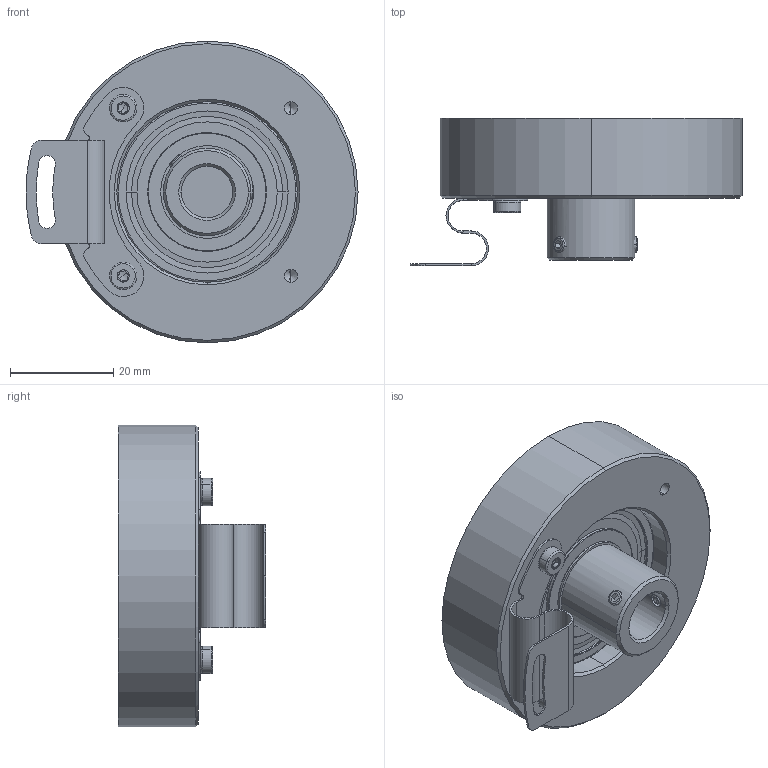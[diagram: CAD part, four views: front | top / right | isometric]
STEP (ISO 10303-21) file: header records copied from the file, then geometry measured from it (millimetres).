
FILE_DESCRIPTION (( 'STEP AP214' ), '1' );
FILE_NAME ('drawing ucd-xat0-q5b-n.STEP', '2017-03-21T16:46:01', ( '' ), ( '' ), 'SwSTEP 2.0', 'SolidWorks 2015', '' );
FILE_SCHEMA (( 'AUTOMOTIVE_DESIGN' ));
Length unit declared in the file: millimetre
Products named in the file (1): drawing ucd-xat0-q5b-n
Bounding box: 64.35 x 28.6 x 58.5 mm (x, y, z)
Volume: 37061.5 mm3; surface area: 21140.9 mm2
Topology: 20 solids, 20 shells, 477 faces, 1091 edges, 611 vertices
Faces by surface type: cone 190, cylinder 149, plane 68, bspline 50, torus 20
Entity records: 19797 total; most frequent: CARTESIAN_POINT 3884, DIRECTION 2367, ORIENTED_EDGE 2058, EDGE_CURVE 1029, AXIS2_PLACEMENT_3D 986, VERTEX_POINT 611, CIRCLE 558, EDGE_LOOP 514
